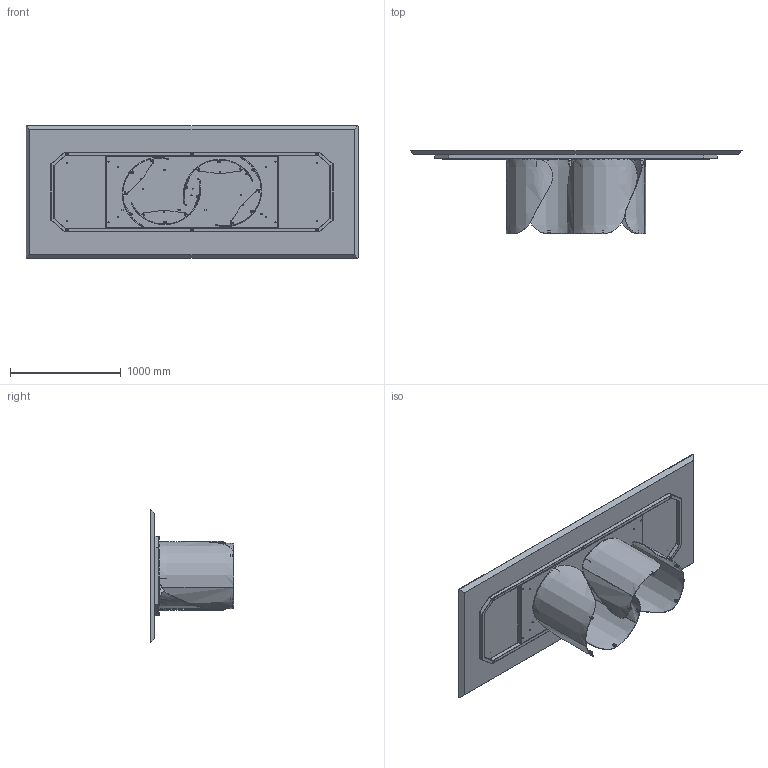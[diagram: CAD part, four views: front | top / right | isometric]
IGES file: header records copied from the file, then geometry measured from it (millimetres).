
Start section: SolidWorks IGES file using analytic representation for surfaces
Global section: file name: Y:\eforma\TECNICO\SOLIDWORKS\E-FORMA\1-TAVOLI\ONDA\02 parts\ON24W.IGS; native system: SolidWorks 2022; preprocessor: SolidWorks 2022; author: eforma.tech; date: 240806.154315; units: millimetre
Bounding box: 3000 x 754 x 1200 mm (x, y, z)
Volume: 149269369.1 mm3; surface area: 15952547.7 mm2
Topology: 79 solids, 79 shells, 2190 faces, 5042 edges, 3019 vertices
Faces by surface type: revolution 1322, plane 788, bspline 80
